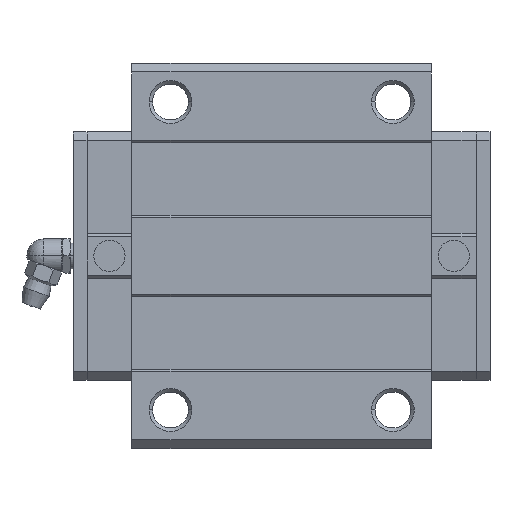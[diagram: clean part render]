
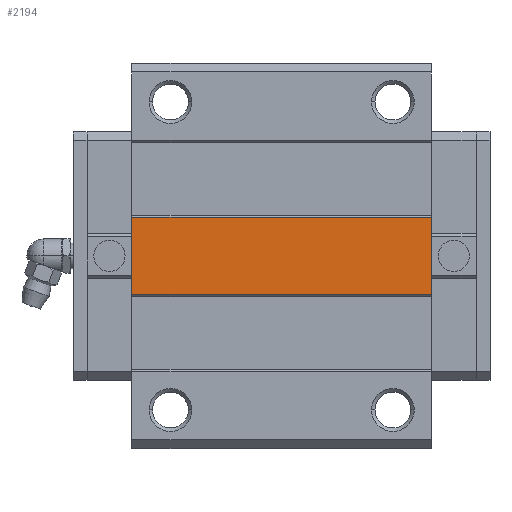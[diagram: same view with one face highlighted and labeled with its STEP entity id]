
A CAD part, top view. The second image highlights one B-rep face of the part: STEP entity #2194.
In plain terms, the highlighted planar face has unit normal (0, 0, 1).
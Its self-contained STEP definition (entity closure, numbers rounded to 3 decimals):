
#2133=CARTESIAN_POINT('POINT138',(83.7,-9.,
   36.));
#2134=VERTEX_POINT('VERTEX138',#2133);
#2141=CARTESIAN_POINT('POINT139',(13.7,-9.,
   36.));
#2142=VERTEX_POINT('VERTEX139',#2141);
#2143=CARTESIAN_POINT('POS208',(13.7,-9.,
   36.));
#2144=DIRECTION('DIR296',(1.,0.,0.));
#2145=VECTOR('VEC120',#2144,1.);
#2146=LINE('STRAIGHT120',#2143,#2145);
#2147=EDGE_CURVE('EDGE204',#2142,#2134,#2146,.T.);
#2164=CARTESIAN_POINT('POINT140',(83.7,9.,36.));
#2165=VERTEX_POINT('VERTEX140',#2164);
#2166=CARTESIAN_POINT('POS211',(83.7,0.,36.));
#2167=DIRECTION('DIR300',(0.,1.,0.));
#2168=VECTOR('VEC122',#2167,1.);
#2169=LINE('STRAIGHT122',#2166,#2168);
#2170=EDGE_CURVE('EDGE206',#2134,#2165,#2169,.T.);
#2171=ORIENTED_EDGE('COEDGE352',*,*,#2170,.T.);
#2172=CARTESIAN_POINT('POINT141',(13.7,9.,36.));
#2173=VERTEX_POINT('VERTEX141',#2172);
#2174=CARTESIAN_POINT('POS212',(13.7,9.,36.));
#2175=DIRECTION('DIR301',(1.,0.,0.));
#2176=VECTOR('VEC123',#2175,1.);
#2177=LINE('STRAIGHT123',#2174,#2176);
#2178=EDGE_CURVE('EDGE207',#2173,#2165,#2177,.T.);
#2179=ORIENTED_EDGE('COEDGE353',*,*,#2178,.F.);
#2180=CARTESIAN_POINT('POS213',(13.7,0.,36.));
#2181=DIRECTION('DIR302',(0.,1.,0.));
#2182=VECTOR('VEC124',#2181,1.);
#2183=LINE('STRAIGHT124',#2180,#2182);
#2184=EDGE_CURVE('EDGE208',#2142,#2173,#2183,.T.);
#2185=ORIENTED_EDGE('COEDGE354',*,*,#2184,.F.);
#2186=ORIENTED_EDGE('COEDGE355',*,*,#2147,.T.);
#2187=EDGE_LOOP('NONE',(#2171,#2179,#2185,#2186));
#2188=FACE_BOUND('LOOP1',#2187,.T.);
#2189=CARTESIAN_POINT('POS214',(13.7,0.,36.));
#2190=DIRECTION('DIR303',(0.,0.,1.));
#2191=DIRECTION('DIR304',(1.,0.,0.));
#2192=AXIS2_PLACEMENT_3D('AXIS90',#2189,#2190,#2191);
#2193=PLANE('PLANE26',#2192);
#2194=ADVANCED_FACE('FACE69',(#2188),#2193,.T.);
